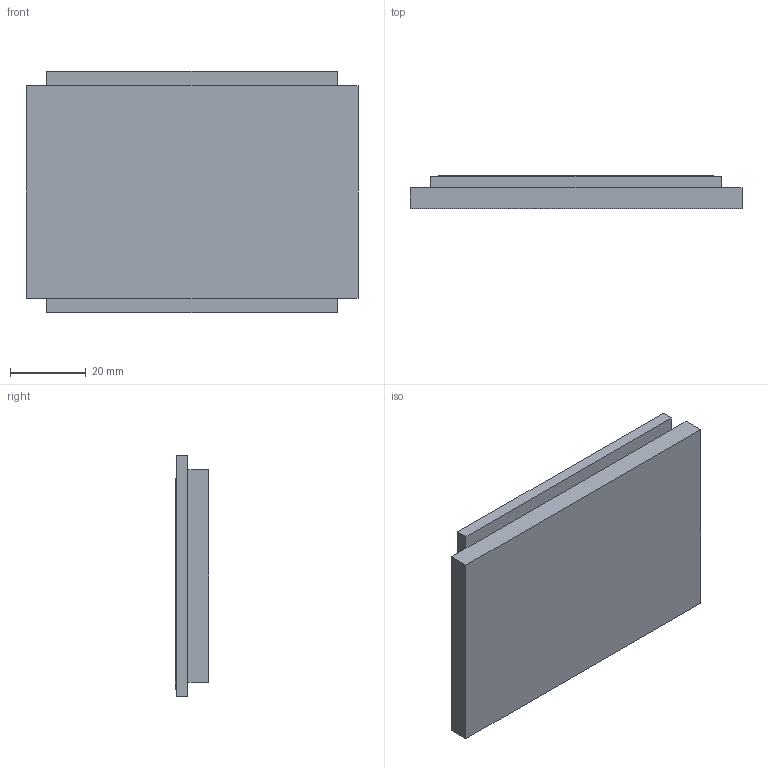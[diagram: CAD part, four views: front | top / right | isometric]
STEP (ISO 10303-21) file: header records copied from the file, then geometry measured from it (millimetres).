
FILE_DESCRIPTION (( 'STEP AP203' ), '1' );
FILE_NAME ('Screen TFT 3.5 Dia.step', '2015-03-14T23:36:10', ( '' ), ( '' ), 'SwSTEP 2.0', 'SolidWorks 2013', '' );
FILE_SCHEMA (( 'CONFIG_CONTROL_DESIGN' ));
Length unit declared in the file: inch
Products named in the file (1): Screen TFT 3.5 Dia
Bounding box: 87.88 x 8.76 x 63.9 mm (x, y, z)
Volume: 43020.1 mm3; surface area: 13562.4 mm2
Topology: 1 solids, 1 shells, 19 faces, 44 edges, 28 vertices
Faces by surface type: plane 19
Entity records: 605 total; most frequent: CARTESIAN_POINT 92, ORIENTED_EDGE 88, DIRECTION 84, EDGE_CURVE 44, LINE 44, VECTOR 44, VERTEX_POINT 28, EDGE_LOOP 20
